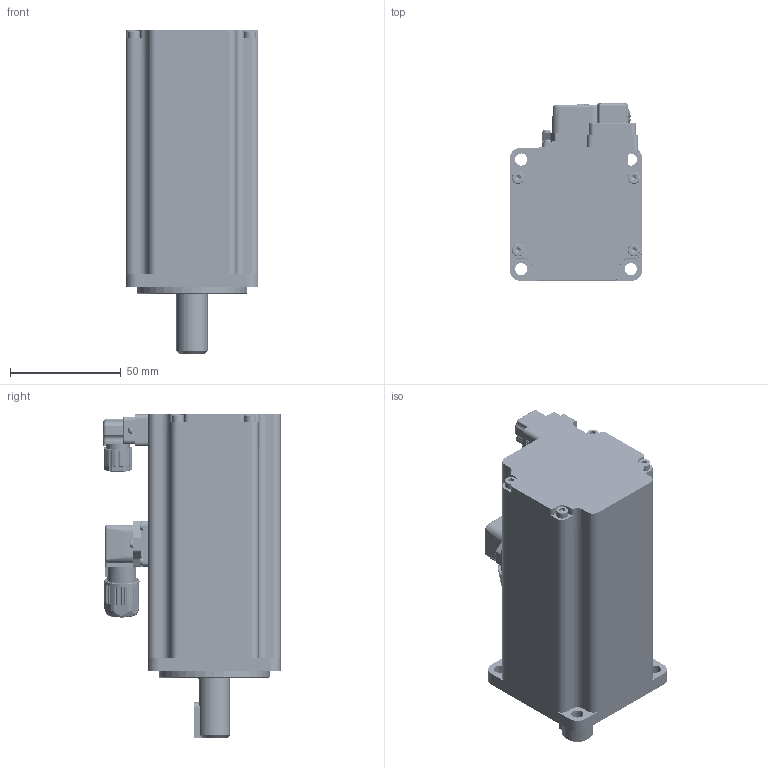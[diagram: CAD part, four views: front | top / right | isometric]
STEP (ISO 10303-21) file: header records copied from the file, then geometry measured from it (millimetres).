
FILE_DESCRIPTION (( 'STEP AP203' ), '1' );
FILE_NAME ('軞蚾.STEP', '2023-11-20T03:20:42', ( 'wuyd' ), ( '' ), 'SwSTEP 2.0', 'SolidWorks 2023', '' );
FILE_SCHEMA (( 'CONFIG_CONTROL_DESIGN' ));
Products named in the file (1): 总装
Bounding box: 60 x 80 x 146 mm (x, y, z)
Surface area: 100218.5 mm2 (no closed solid volume)
Topology: 0 solids, 339 shells, 8692 faces, 21834 edges, 13969 vertices
Faces by surface type: plane 4540, cylinder 2011, bspline 1583, torus 228, cone 226, sphere 104
Entity records: 355014 total; most frequent: CARTESIAN_POINT 166443, ORIENTED_EDGE 43318, DIRECTION 31005, EDGE_CURVE 21670, VERTEX_POINT 13969, AXIS2_PLACEMENT_3D 10473, LINE 10059, VECTOR 10059
